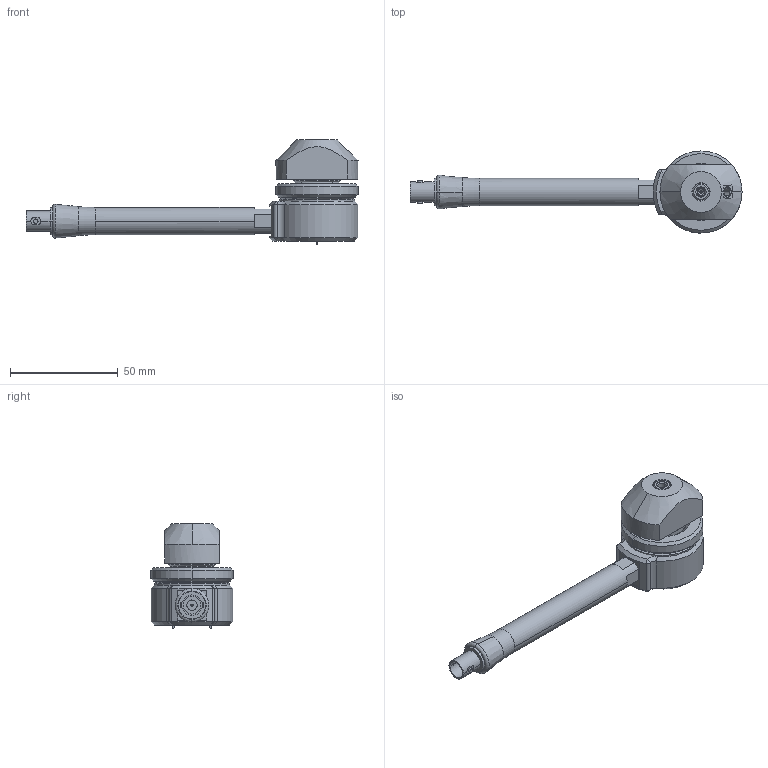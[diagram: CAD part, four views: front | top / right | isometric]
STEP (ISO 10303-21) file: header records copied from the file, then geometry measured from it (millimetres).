
FILE_DESCRIPTION((''),'2;1');
FILE_NAME('ASM_EQCM_FLOW_CELL_ASM','2021-07-14T09:09:57',('gaw'),(''),'CREO PARAMETRIC BY PTC INC, 2019471','CREO PARAMETRIC BY PTC INC, 2019471','');
FILE_SCHEMA(('CONFIG_CONTROL_DESIGN'));
Length unit declared in the file: inch
Products named in the file (16): PRT0001; PROBE_PLUG; PROBE_EQCM; CONNECTOR_BNC; O_RING_375ID_50OD; ASM_PROBE_ASM; TEST_PROBE; PROBE_CONTACT; EQCM_CRYSTAL; AXIAL_FLOW_CELL_BASE; PROBE_RETAINER; AXIAL_FLOW_CELL_TOP; AXIAL_FLOW_CELL_MIDDLE; ASM_AXIAL_FLOW_CELL_ASM; PROBE_BODY; ASM_EQCM_FLOW_CELL_ASM
Assembly tree (17 placements, depth 3):
  ASM_EQCM_FLOW_CELL_ASM
    PRT0001
    PROBE_PLUG
    ASM_PROBE_ASM
      PROBE_EQCM
      CONNECTOR_BNC
      O_RING_375ID_50OD
    TEST_PROBE  x2
    PROBE_CONTACT  x2
    EQCM_CRYSTAL
    ASM_AXIAL_FLOW_CELL_ASM
      AXIAL_FLOW_CELL_BASE
      PROBE_RETAINER
      AXIAL_FLOW_CELL_TOP
      AXIAL_FLOW_CELL_MIDDLE
    PROBE_BODY
Bounding box: 154.18 x 38.1 x 48.53 mm (x, y, z)
Volume: 64303.1 mm3; surface area: 36655.1 mm2
Topology: 15 solids, 18 shells, 752 faces, 1753 edges, 1063 vertices
Faces by surface type: cylinder 249, cone 243, plane 206, torus 48, bspline 6
Entity records: 21546 total; most frequent: DIRECTION 4084, CARTESIAN_POINT 3931, ORIENTED_EDGE 3374, EDGE_CURVE 1693, AXIS2_PLACEMENT_3D 1668, VERTEX_POINT 1025, CIRCLE 905, EDGE_LOOP 772
